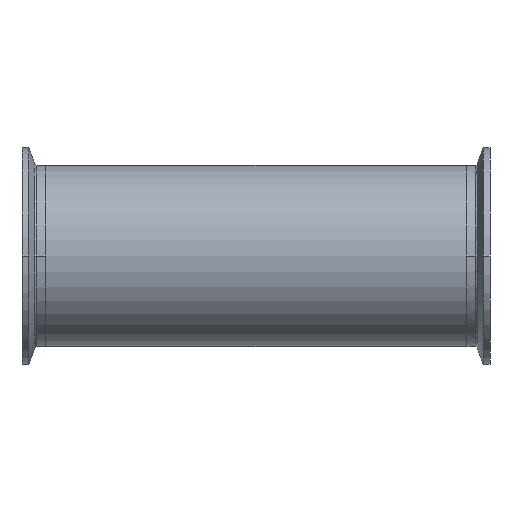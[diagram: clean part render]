
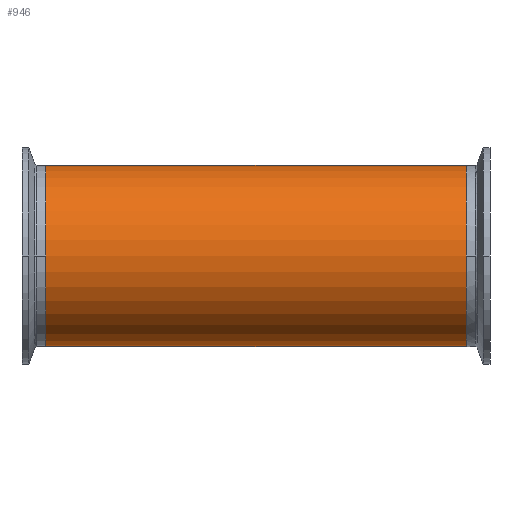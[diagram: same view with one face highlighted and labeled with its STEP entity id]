
A CAD part, front view. The second image highlights one B-rep face of the part: STEP entity #946.
In plain terms, the highlighted cylindrical face has radius 38.1 mm (diameter 76.2 mm), a partial arc.
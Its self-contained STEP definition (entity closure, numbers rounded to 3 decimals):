
#138 = EDGE_CURVE ( 'NONE', #4576, #720, #650, .T. ) ;
#172 = ORIENTED_EDGE ( 'NONE', *, *, #1532, .T. ) ;
#385 = EDGE_CURVE ( 'NONE', #4576, #3035, #591, .T. ) ;
#427 = DIRECTION ( 'NONE',  ( 0., 0., 1. ) ) ;
#591 = LINE ( 'NONE', #1581, #2488 ) ;
#650 = CIRCLE ( 'NONE', #4630, 38.1 ) ;
#720 = VERTEX_POINT ( 'NONE', #4381 ) ;
#813 = CARTESIAN_POINT ( 'NONE',  ( 88.4, 0., 0. ) ) ;
#908 = EDGE_CURVE ( 'NONE', #4678, #3035, #3621, .T. ) ;
#946 = ADVANCED_FACE ( 'NONE', ( #2609 ), #4333, .T. ) ;
#1147 = DIRECTION ( 'NONE',  ( 1., 0., 0. ) ) ;
#1177 = CARTESIAN_POINT ( 'NONE',  ( -88.4, 0., 0. ) ) ;
#1191 = DIRECTION ( 'NONE',  ( 0., 0., 1. ) ) ;
#1232 = CARTESIAN_POINT ( 'NONE',  ( -88.4, 0., 38.1 ) ) ;
#1325 = CARTESIAN_POINT ( 'NONE',  ( 196.163, 0., 0. ) ) ;
#1410 = DIRECTION ( 'NONE',  ( -1., 0., 0. ) ) ;
#1414 = DIRECTION ( 'NONE',  ( -1., 0., 0. ) ) ;
#1458 = DIRECTION ( 'NONE',  ( 0., 0., 1. ) ) ;
#1532 = EDGE_CURVE ( 'NONE', #720, #4678, #2863, .T. ) ;
#1575 = ORIENTED_EDGE ( 'NONE', *, *, #908, .T. ) ;
#1581 = CARTESIAN_POINT ( 'NONE',  ( 196.163, 0., -38.1 ) ) ;
#1586 = ORIENTED_EDGE ( 'NONE', *, *, #138, .T. ) ;
#1851 = VECTOR ( 'NONE', #1414, 1000. ) ;
#2488 = VECTOR ( 'NONE', #4159, 1000. ) ;
#2509 = AXIS2_PLACEMENT_3D ( 'NONE', #1177, #1147, #1191 ) ;
#2574 = CARTESIAN_POINT ( 'NONE',  ( 88.4, 0., -38.1 ) ) ;
#2609 = FACE_OUTER_BOUND ( 'NONE', #3895, .T. ) ;
#2863 = LINE ( 'NONE', #2914, #1851 ) ;
#2914 = CARTESIAN_POINT ( 'NONE',  ( 196.163, 0., 38.1 ) ) ;
#3035 = VERTEX_POINT ( 'NONE', #3215 ) ;
#3097 = DIRECTION ( 'NONE',  ( -1., 0., 0. ) ) ;
#3215 = CARTESIAN_POINT ( 'NONE',  ( -88.4, 0., -38.1 ) ) ;
#3621 = CIRCLE ( 'NONE', #2509, 38.1 ) ;
#3763 = ORIENTED_EDGE ( 'NONE', *, *, #385, .F. ) ;
#3895 = EDGE_LOOP ( 'NONE', ( #3763, #1586, #172, #1575 ) ) ;
#4159 = DIRECTION ( 'NONE',  ( -1., 0., 0. ) ) ;
#4231 = AXIS2_PLACEMENT_3D ( 'NONE', #1325, #1410, #1458 ) ;
#4333 = CYLINDRICAL_SURFACE ( 'NONE', #4231, 38.1 ) ;
#4381 = CARTESIAN_POINT ( 'NONE',  ( 88.4, 0., 38.1 ) ) ;
#4576 = VERTEX_POINT ( 'NONE', #2574 ) ;
#4630 = AXIS2_PLACEMENT_3D ( 'NONE', #813, #3097, #427 ) ;
#4678 = VERTEX_POINT ( 'NONE', #1232 ) ;
